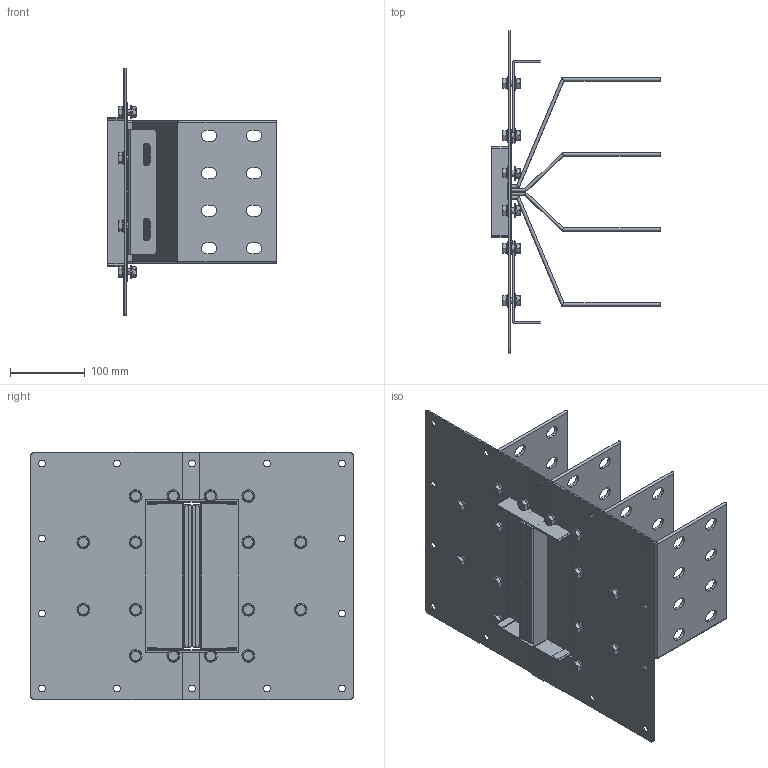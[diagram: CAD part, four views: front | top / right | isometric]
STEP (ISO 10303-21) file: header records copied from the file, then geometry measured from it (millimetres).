
FILE_DESCRIPTION(('CATIA V5 STEP','CAx-IF Rec.Pracs.--- Model Styling and Organization---1.5--- 2016-08-15','CAx-IF Rec.Pracs.---Supplemental Geometry---1.0---2011-11-01','CAx-IF Rec.Pracs.--- Composite Materials ---1.1---2010-07-15'),'2;1');
FILE_NAME('K:\COSCN 2011\32372311_RiduzioneSezioniBarre\03_Studio\__Modelli semplificati\XCP_UB semplificati per studi\XCP-S_UB_4C_Pe_STD_Assieme\Al\XCP-S_UB_4C_Pe_S_Assieme - 1600A Al\XCP-S_UB_4C_Pe_S_Assieme - 1600A Al.stp','2025-05-12T12:30:44+00:00',('Utente Bticino'),('Bticino S.p.A.'),'CATIA Version 5-6 Release 2020 SP5','CATIA V5 STEP AP214 v2','none');
FILE_SCHEMA(('AUTOMOTIVE_DESIGN { 1 0 10303 214 1 1 1 1 }'));
Length unit declared in the file: millimetre
Products named in the file (7): XCP-S_UB_4C_Pe_S_Assieme - 1600A Al; XCP-S_UB_4C_Pe_S_PaccoBarre_1600A Al; XCP-S_UB_4C_Pe_S_Lamiere_1600A Al; Viteria UB H130; Ass Vite+dado M8; Steel hex flanged SCREW M12x16; Steel hex flanged NUT M8
Assembly tree (21 placements, depth 4):
  XCP-S_UB_4C_Pe_S_Assieme - 1600A Al
    XCP-S_UB_4C_Pe_S_PaccoBarre_1600A Al
    XCP-S_UB_4C_Pe_S_Lamiere_1600A Al
    Viteria UB H130
      Ass Vite+dado M8  x16
        Steel hex flanged SCREW M12x16
        Steel hex flanged NUT M8
Bounding box: 225 x 430 x 330 mm (x, y, z)
Volume: 1304787.9 mm3; surface area: 918288.8 mm2
Topology: 44 solids, 44 shells, 1204 faces, 2992 edges, 1908 vertices
Faces by surface type: plane 512, cylinder 404, cone 128, bspline 128, torus 32
Entity records: 16794 total; most frequent: CARTESIAN_POINT 3794, ORIENTED_EDGE 2804, DIRECTION 2192, EDGE_CURVE 1402, VERTEX_POINT 918, AXIS2_PLACEMENT_3D 912, VECTOR 852, LINE 852
